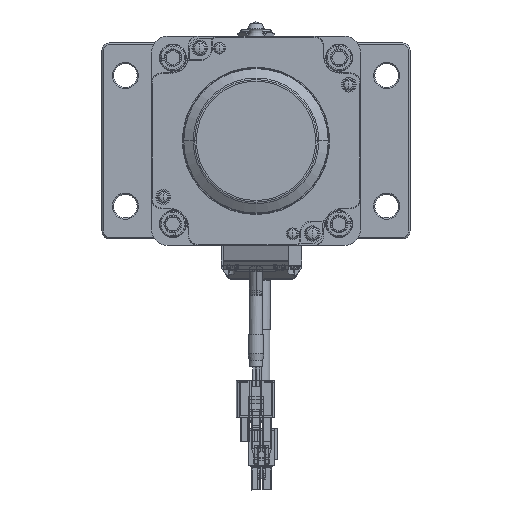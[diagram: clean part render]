
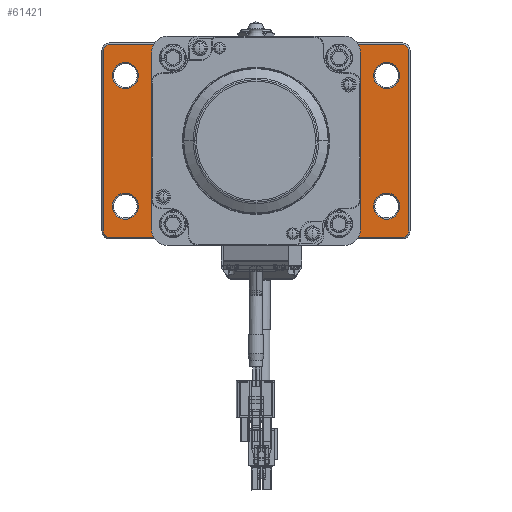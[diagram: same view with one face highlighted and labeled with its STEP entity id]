
A CAD part, front view. The second image highlights one B-rep face of the part: STEP entity #61421.
In plain terms, the highlighted planar face has unit normal (0, -1, 0).
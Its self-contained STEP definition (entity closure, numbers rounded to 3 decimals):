
#60088=CARTESIAN_POINT('',(0.,-6.,0.));
#60089=DIRECTION('',(0.,1.,0.));
#60090=DIRECTION('',(-1.,0.,0.));
#60091=AXIS2_PLACEMENT_3D('',#60088,#60089,#60090);
#60093=CARTESIAN_POINT('',(0.,-6.,0.));
#60094=DIRECTION('',(0.,1.,0.));
#60095=DIRECTION('',(1.,0.,0.));
#60096=AXIS2_PLACEMENT_3D('',#60093,#60094,#60095);
#60098=CARTESIAN_POINT('',(-50.,-6.,25.));
#60099=DIRECTION('',(0.,1.,0.));
#60100=DIRECTION('',(1.,0.,0.));
#60101=AXIS2_PLACEMENT_3D('',#60098,#60099,#60100);
#60103=CARTESIAN_POINT('',(-50.,-6.,25.));
#60104=DIRECTION('',(0.,1.,0.));
#60105=DIRECTION('',(-1.,0.,0.));
#60106=AXIS2_PLACEMENT_3D('',#60103,#60104,#60105);
#60108=CARTESIAN_POINT('',(50.,-6.,25.));
#60109=DIRECTION('',(0.,1.,0.));
#60110=DIRECTION('',(1.,0.,0.));
#60111=AXIS2_PLACEMENT_3D('',#60108,#60109,#60110);
#60113=CARTESIAN_POINT('',(50.,-6.,25.));
#60114=DIRECTION('',(0.,1.,0.));
#60115=DIRECTION('',(-1.,0.,0.));
#60116=AXIS2_PLACEMENT_3D('',#60113,#60114,#60115);
#60118=CARTESIAN_POINT('',(50.,-6.,-25.));
#60119=DIRECTION('',(0.,1.,0.));
#60120=DIRECTION('',(1.,0.,0.));
#60121=AXIS2_PLACEMENT_3D('',#60118,#60119,#60120);
#60123=CARTESIAN_POINT('',(50.,-6.,-25.));
#60124=DIRECTION('',(0.,1.,0.));
#60125=DIRECTION('',(-1.,0.,0.));
#60126=AXIS2_PLACEMENT_3D('',#60123,#60124,#60125);
#60128=CARTESIAN_POINT('',(-50.,-6.,-25.));
#60129=DIRECTION('',(0.,1.,0.));
#60130=DIRECTION('',(1.,0.,0.));
#60131=AXIS2_PLACEMENT_3D('',#60128,#60129,#60130);
#60133=CARTESIAN_POINT('',(-50.,-6.,-25.));
#60134=DIRECTION('',(0.,1.,0.));
#60135=DIRECTION('',(-1.,0.,0.));
#60136=AXIS2_PLACEMENT_3D('',#60133,#60134,#60135);
#60138=CARTESIAN_POINT('',(-56.,-6.,34.5));
#60139=DIRECTION('',(0.,-1.,0.));
#60140=DIRECTION('',(0.,0.,1.));
#60141=AXIS2_PLACEMENT_3D('',#60138,#60139,#60140);
#60143=DIRECTION('',(-1.,0.,0.));
#60144=VECTOR('',#60143,112.);
#60145=CARTESIAN_POINT('',(56.,-6.,
37.));
#60146=LINE('',#60145,#60144);
#60147=CARTESIAN_POINT('',(56.,-6.,34.5));
#60148=DIRECTION('',(0.,-1.,0.));
#60149=DIRECTION('',(1.,0.,0.));
#60150=AXIS2_PLACEMENT_3D('',#60147,#60148,#60149);
#60152=DIRECTION('',(0.,0.,1.));
#60153=VECTOR('',#60152,69.);
#60154=CARTESIAN_POINT('',(58.5,-6.,
-34.5));
#60155=LINE('',#60154,#60153);
#60156=CARTESIAN_POINT('',(56.,-6.,-34.5));
#60157=DIRECTION('',(0.,-1.,0.));
#60158=DIRECTION('',(0.,0.,-1.));
#60159=AXIS2_PLACEMENT_3D('',#60156,#60157,#60158);
#60161=DIRECTION('',(1.,0.,0.));
#60162=VECTOR('',#60161,112.);
#60163=CARTESIAN_POINT('',(-56.,-6.,
-37.));
#60164=LINE('',#60163,#60162);
#60165=CARTESIAN_POINT('',(-56.,-6.,-34.5));
#60166=DIRECTION('',(0.,-1.,0.));
#60167=DIRECTION('',(-1.,0.,0.));
#60168=AXIS2_PLACEMENT_3D('',#60165,#60166,#60167);
#60170=DIRECTION('',(0.,0.,-1.));
#60171=VECTOR('',#60170,69.);
#60172=CARTESIAN_POINT('',(-58.5,-6.,
34.5));
#60173=LINE('',#60172,#60171);
#60174=CARTESIAN_POINT('',(28.25,-6.,-28.25));
#60175=DIRECTION('',(0.,1.,0.));
#60176=DIRECTION('',(1.,0.,0.));
#60177=AXIS2_PLACEMENT_3D('',#60174,#60175,#60176);
#60179=CARTESIAN_POINT('',(28.25,-6.,-28.25));
#60180=DIRECTION('',(0.,1.,0.));
#60181=DIRECTION('',(-1.,0.,0.));
#60182=AXIS2_PLACEMENT_3D('',#60179,#60180,#60181);
#60184=CARTESIAN_POINT('',(-28.25,-6.,-28.25));
#60185=DIRECTION('',(0.,1.,0.));
#60186=DIRECTION('',(1.,0.,0.));
#60187=AXIS2_PLACEMENT_3D('',#60184,#60185,#60186);
#60189=CARTESIAN_POINT('',(-28.25,-6.,-28.25));
#60190=DIRECTION('',(0.,1.,0.));
#60191=DIRECTION('',(-1.,0.,0.));
#60192=AXIS2_PLACEMENT_3D('',#60189,#60190,#60191);
#60194=CARTESIAN_POINT('',(28.25,-6.,28.25));
#60195=DIRECTION('',(0.,1.,0.));
#60196=DIRECTION('',(1.,0.,0.));
#60197=AXIS2_PLACEMENT_3D('',#60194,#60195,#60196);
#60199=CARTESIAN_POINT('',(28.25,-6.,28.25));
#60200=DIRECTION('',(0.,1.,0.));
#60201=DIRECTION('',(-1.,0.,0.));
#60202=AXIS2_PLACEMENT_3D('',#60199,#60200,#60201);
#60204=CARTESIAN_POINT('',(-28.25,-6.,28.25));
#60205=DIRECTION('',(0.,1.,0.));
#60206=DIRECTION('',(1.,0.,0.));
#60207=AXIS2_PLACEMENT_3D('',#60204,#60205,#60206);
#60209=CARTESIAN_POINT('',(-28.25,-6.,28.25));
#60210=DIRECTION('',(0.,1.,0.));
#60211=DIRECTION('',(-1.,0.,0.));
#60212=AXIS2_PLACEMENT_3D('',#60209,#60210,#60211);
#61096=CARTESIAN_POINT('',(-28.25,-6.,0.));
#61097=CARTESIAN_POINT('',(28.25,-6.,0.));
#61098=VERTEX_POINT('',#61096);
#61099=VERTEX_POINT('',#61097);
#61136=CARTESIAN_POINT('',(-45.,-6.,25.));
#61137=CARTESIAN_POINT('',(-55.,-6.,25.));
#61138=VERTEX_POINT('',#61136);
#61139=VERTEX_POINT('',#61137);
#61144=CARTESIAN_POINT('',(55.,-6.,25.));
#61145=CARTESIAN_POINT('',(45.,-6.,25.));
#61146=VERTEX_POINT('',#61144);
#61147=VERTEX_POINT('',#61145);
#61152=CARTESIAN_POINT('',(55.,-6.,-25.));
#61153=CARTESIAN_POINT('',(45.,-6.,-25.));
#61154=VERTEX_POINT('',#61152);
#61155=VERTEX_POINT('',#61153);
#61160=CARTESIAN_POINT('',(-45.,-6.,-25.));
#61161=CARTESIAN_POINT('',(-55.,-6.,-25.));
#61162=VERTEX_POINT('',#61160);
#61163=VERTEX_POINT('',#61161);
#61168=CARTESIAN_POINT('',(-56.,-6.,37.));
#61169=CARTESIAN_POINT('',(-58.5,-6.,34.5));
#61170=VERTEX_POINT('',#61168);
#61171=VERTEX_POINT('',#61169);
#61176=CARTESIAN_POINT('',(-58.5,-6.,
-34.5));
#61177=VERTEX_POINT('',#61176);
#61180=CARTESIAN_POINT('',(-56.,-6.,-37.));
#61181=VERTEX_POINT('',#61180);
#61184=CARTESIAN_POINT('',(56.,-6.,
-37.));
#61185=VERTEX_POINT('',#61184);
#61188=CARTESIAN_POINT('',(58.5,-6.,-34.5));
#61189=VERTEX_POINT('',#61188);
#61192=CARTESIAN_POINT('',(58.5,-6.,
34.5));
#61193=VERTEX_POINT('',#61192);
#61196=CARTESIAN_POINT('',(56.,-6.,37.));
#61197=VERTEX_POINT('',#61196);
#61248=CARTESIAN_POINT('',(33.05,-6.,-28.25));
#61249=CARTESIAN_POINT('',(23.45,-6.,-28.25));
#61250=VERTEX_POINT('',#61248);
#61251=VERTEX_POINT('',#61249);
#61256=CARTESIAN_POINT('',(-23.45,-6.,-28.25));
#61257=CARTESIAN_POINT('',(-33.05,-6.,-28.25));
#61258=VERTEX_POINT('',#61256);
#61259=VERTEX_POINT('',#61257);
#61264=CARTESIAN_POINT('',(33.05,-6.,28.25));
#61265=CARTESIAN_POINT('',(23.45,-6.,28.25));
#61266=VERTEX_POINT('',#61264);
#61267=VERTEX_POINT('',#61265);
#61272=CARTESIAN_POINT('',(-23.45,-6.,28.25));
#61273=CARTESIAN_POINT('',(-33.05,-6.,28.25));
#61274=VERTEX_POINT('',#61272);
#61275=VERTEX_POINT('',#61273);
#61344=CARTESIAN_POINT('',(0.,-6.,0.));
#61345=DIRECTION('',(0.,1.,0.));
#61346=DIRECTION('',(1.,0.,0.));
#61347=AXIS2_PLACEMENT_3D('',#61344,#61345,#61346);
#61348=PLANE('',#61347);
#61350=ORIENTED_EDGE('',*,*,#61349,.F.);
#61352=ORIENTED_EDGE('',*,*,#61351,.F.);
#61354=ORIENTED_EDGE('',*,*,#61353,.F.);
#61356=ORIENTED_EDGE('',*,*,#61355,.F.);
#61358=ORIENTED_EDGE('',*,*,#61357,.F.);
#61360=ORIENTED_EDGE('',*,*,#61359,.F.);
#61362=ORIENTED_EDGE('',*,*,#61361,.F.);
#61364=ORIENTED_EDGE('',*,*,#61363,.F.);
#61365=EDGE_LOOP('',(#61350,#61352,#61354,#61356,#61358,#61360,#61362,#61364));
#61366=FACE_OUTER_BOUND('',#61365,.F.);
#61368=ORIENTED_EDGE('',*,*,#61367,.F.);
#61370=ORIENTED_EDGE('',*,*,#61369,.F.);
#61371=EDGE_LOOP('',(#61368,#61370));
#61372=FACE_BOUND('',#61371,.F.);
#61374=ORIENTED_EDGE('',*,*,#61373,.F.);
#61376=ORIENTED_EDGE('',*,*,#61375,.F.);
#61377=EDGE_LOOP('',(#61374,#61376));
#61378=FACE_BOUND('',#61377,.F.);
#61380=ORIENTED_EDGE('',*,*,#61379,.F.);
#61382=ORIENTED_EDGE('',*,*,#61381,.F.);
#61383=EDGE_LOOP('',(#61380,#61382));
#61384=FACE_BOUND('',#61383,.F.);
#61386=ORIENTED_EDGE('',*,*,#61385,.F.);
#61388=ORIENTED_EDGE('',*,*,#61387,.F.);
#61389=EDGE_LOOP('',(#61386,#61388));
#61390=FACE_BOUND('',#61389,.F.);
#61392=ORIENTED_EDGE('',*,*,#61391,.F.);
#61394=ORIENTED_EDGE('',*,*,#61393,.F.);
#61395=EDGE_LOOP('',(#61392,#61394));
#61396=FACE_BOUND('',#61395,.F.);
#61398=ORIENTED_EDGE('',*,*,#61397,.F.);
#61400=ORIENTED_EDGE('',*,*,#61399,.F.);
#61401=EDGE_LOOP('',(#61398,#61400));
#61402=FACE_BOUND('',#61401,.F.);
#61404=ORIENTED_EDGE('',*,*,#61403,.F.);
#61406=ORIENTED_EDGE('',*,*,#61405,.F.);
#61407=EDGE_LOOP('',(#61404,#61406));
#61408=FACE_BOUND('',#61407,.F.);
#61410=ORIENTED_EDGE('',*,*,#61409,.F.);
#61412=ORIENTED_EDGE('',*,*,#61411,.F.);
#61413=EDGE_LOOP('',(#61410,#61412));
#61414=FACE_BOUND('',#61413,.F.);
#61416=ORIENTED_EDGE('',*,*,#61415,.F.);
#61418=ORIENTED_EDGE('',*,*,#61417,.F.);
#61419=EDGE_LOOP('',(#61416,#61418));
#61420=FACE_BOUND('',#61419,.F.);
#61421=ADVANCED_FACE('',(#61366,#61372,#61378,#61384,#61390,#61396,#61402,
#61408,#61414,#61420),#61348,.F.);
#60092=CIRCLE('',#60091,28.25);
#60097=CIRCLE('',#60096,28.25);
#60102=CIRCLE('',#60101,5.);
#60107=CIRCLE('',#60106,5.);
#60112=CIRCLE('',#60111,5.);
#60117=CIRCLE('',#60116,5.);
#60122=CIRCLE('',#60121,5.);
#60127=CIRCLE('',#60126,5.);
#60132=CIRCLE('',#60131,5.);
#60137=CIRCLE('',#60136,5.);
#60142=CIRCLE('',#60141,2.5);
#60151=CIRCLE('',#60150,2.5);
#60160=CIRCLE('',#60159,2.5);
#60169=CIRCLE('',#60168,2.5);
#60178=CIRCLE('',#60177,4.8);
#60183=CIRCLE('',#60182,4.8);
#60188=CIRCLE('',#60187,4.8);
#60193=CIRCLE('',#60192,4.8);
#60198=CIRCLE('',#60197,4.8);
#60203=CIRCLE('',#60202,4.8);
#60208=CIRCLE('',#60207,4.8);
#60213=CIRCLE('',#60212,4.8);
#61349=EDGE_CURVE('',#61170,#61171,#60142,.T.);
#61351=EDGE_CURVE('',#61197,#61170,#60146,.T.);
#61353=EDGE_CURVE('',#61193,#61197,#60151,.T.);
#61355=EDGE_CURVE('',#61189,#61193,#60155,.T.);
#61357=EDGE_CURVE('',#61185,#61189,#60160,.T.);
#61359=EDGE_CURVE('',#61181,#61185,#60164,.T.);
#61361=EDGE_CURVE('',#61177,#61181,#60169,.T.);
#61363=EDGE_CURVE('',#61171,#61177,#60173,.T.);
#61367=EDGE_CURVE('',#61138,#61139,#60102,.T.);
#61369=EDGE_CURVE('',#61139,#61138,#60107,.T.);
#61373=EDGE_CURVE('',#61146,#61147,#60112,.T.);
#61375=EDGE_CURVE('',#61147,#61146,#60117,.T.);
#61379=EDGE_CURVE('',#61154,#61155,#60122,.T.);
#61381=EDGE_CURVE('',#61155,#61154,#60127,.T.);
#61385=EDGE_CURVE('',#61162,#61163,#60132,.T.);
#61387=EDGE_CURVE('',#61163,#61162,#60137,.T.);
#61391=EDGE_CURVE('',#61098,#61099,#60092,.T.);
#61393=EDGE_CURVE('',#61099,#61098,#60097,.T.);
#61397=EDGE_CURVE('',#61250,#61251,#60178,.T.);
#61399=EDGE_CURVE('',#61251,#61250,#60183,.T.);
#61403=EDGE_CURVE('',#61258,#61259,#60188,.T.);
#61405=EDGE_CURVE('',#61259,#61258,#60193,.T.);
#61409=EDGE_CURVE('',#61266,#61267,#60198,.T.);
#61411=EDGE_CURVE('',#61267,#61266,#60203,.T.);
#61415=EDGE_CURVE('',#61274,#61275,#60208,.T.);
#61417=EDGE_CURVE('',#61275,#61274,#60213,.T.);
